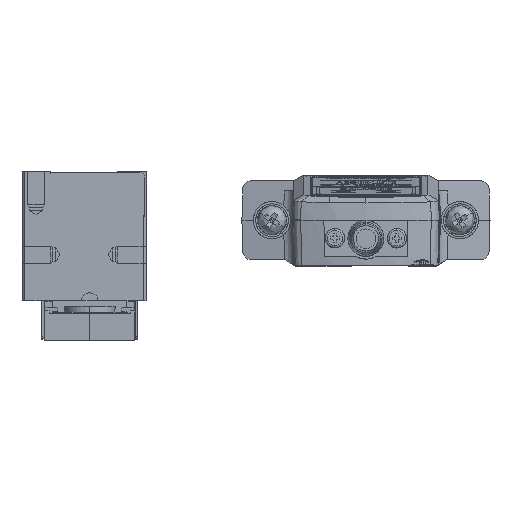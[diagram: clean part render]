
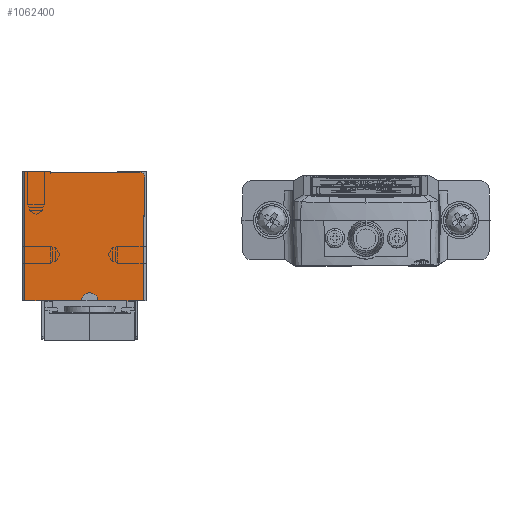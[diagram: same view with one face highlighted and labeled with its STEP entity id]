
A CAD part, left-side view. The second image highlights one B-rep face of the part: STEP entity #1062400.
In plain terms, the highlighted planar face has unit normal (-1, 0, 0).
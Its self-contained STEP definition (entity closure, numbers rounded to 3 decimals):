
#1034970=CARTESIAN_POINT('',(0.,21.5,0.));
#1034980=VERTEX_POINT('',#1034970);
#1035210=CARTESIAN_POINT('',(0.,17.,0.));
#1035220=VERTEX_POINT('',#1035210);
#1035250=CARTESIAN_POINT('',(0.,0.,0.));
#1035260=DIRECTION('',(0.,1.,0.));
#1035270=VECTOR('',#1035260,1.);
#1035280=LINE('',#1035250,#1035270);
#1035290=EDGE_CURVE('',#1035220,#1034980,#1035280,.T.);
#1035530=CARTESIAN_POINT('',(0.,0.5,-8.));
#1035540=VERTEX_POINT('',#1035530);
#1039720=CARTESIAN_POINT('',(0.,21.5,-23.));
#1039730=VERTEX_POINT('',#1039720);
#1039760=CARTESIAN_POINT('',(0.,0.,-23.));
#1039770=DIRECTION('',(0.,-1.,0.));
#1039780=VECTOR('',#1039770,1.);
#1039790=LINE('',#1039760,#1039780);
#1039800=CARTESIAN_POINT('',(0.,11.4,-23.));
#1039810=VERTEX_POINT('',#1039800);
#1039820=EDGE_CURVE('',#1039730,#1039810,#1039790,.T.);
#1040040=CARTESIAN_POINT('',(0.,8.6,-23.));
#1040050=VERTEX_POINT('',#1040040);
#1040080=CARTESIAN_POINT('',(0.,0.,-23.));
#1040090=DIRECTION('',(0.,1.,0.));
#1040100=VECTOR('',#1040090,1.);
#1040110=LINE('',#1040080,#1040100);
#1040120=CARTESIAN_POINT('',(0.,0.5,-23.));
#1040130=VERTEX_POINT('',#1040120);
#1040140=EDGE_CURVE('',#1040130,#1040050,#1040110,.T.);
#1048510=CARTESIAN_POINT('',(0.,0.5,0.));
#1048520=DIRECTION('',(0.,0.,-1.));
#1048530=VECTOR('',#1048520,1.);
#1048540=LINE('',#1048510,#1048530);
#1048550=CARTESIAN_POINT('',(0.,0.5,-7.9));
#1048560=VERTEX_POINT('',#1048550);
#1048570=EDGE_CURVE('',#1048560,#1035540,#1048540,.T.);
#1049440=CARTESIAN_POINT('',(0.,0.2,-1.1));
#1049450=VERTEX_POINT('',#1049440);
#1049480=CARTESIAN_POINT('',(0.,1.1,-1.1));
#1049490=DIRECTION('',(1.,0.,0.));
#1049500=DIRECTION('',(0.,-1.,0.));
#1049510=AXIS2_PLACEMENT_3D('',#1049480,#1049490,#1049500);
#1049520=CIRCLE('',#1049510,0.9);
#1049530=CARTESIAN_POINT('',(0.,1.1,-0.2));
#1049540=VERTEX_POINT('',#1049530);
#1049550=EDGE_CURVE('',#1049540,#1049450,#1049520,.T.);
#1050330=CARTESIAN_POINT('',(0.,21.5,-11.5));
#1050340=DIRECTION('',(0.,0.,-1.));
#1050350=VECTOR('',#1050340,1.);
#1050360=LINE('',#1050330,#1050350);
#1050370=EDGE_CURVE('',#1034980,#1039730,#1050360,.T.);
#1051300=CARTESIAN_POINT('',(0.,10.2,-22.8));
#1051310=DIRECTION('',(1.,0.,0.));
#1051320=DIRECTION('',(0.,-1.,0.));
#1051330=AXIS2_PLACEMENT_3D('',#1051300,#1051310,#1051320);
#1051340=CIRCLE('',#1051330,1.2);
#1051350=CARTESIAN_POINT('',(0.,11.4,-22.8));
#1051360=VERTEX_POINT('',#1051350);
#1051370=CARTESIAN_POINT('',(0.,10.2,-21.6));
#1051380=VERTEX_POINT('',#1051370);
#1051390=EDGE_CURVE('',#1051360,#1051380,#1051340,.T.);
#1052420=CARTESIAN_POINT('',(0.,0.5,-15.5));
#1052430=DIRECTION('',(0.,0.,-1.));
#1052440=VECTOR('',#1052430,1.);
#1052450=LINE('',#1052420,#1052440);
#1052460=EDGE_CURVE('',#1035540,#1040130,#1052450,.T.);
#1052580=CARTESIAN_POINT('',(0.,9.8,-22.8));
#1052590=DIRECTION('',(1.,0.,0.));
#1052600=DIRECTION('',(0.,-1.,0.));
#1052610=AXIS2_PLACEMENT_3D('',#1052580,#1052590,#1052600);
#1052620=CIRCLE('',#1052610,1.2);
#1052630=CARTESIAN_POINT('',(0.,9.8,-21.6));
#1052640=VERTEX_POINT('',#1052630);
#1052650=CARTESIAN_POINT('',(0.,8.6,-22.8));
#1052660=VERTEX_POINT('',#1052650);
#1052670=EDGE_CURVE('',#1052640,#1052660,#1052620,.T.);
#1054920=CARTESIAN_POINT('',(0.,0.,-21.6));
#1054930=DIRECTION('',(0.,1.,0.));
#1054940=VECTOR('',#1054930,1.);
#1054950=LINE('',#1054920,#1054940);
#1054960=EDGE_CURVE('',#1052640,#1051380,#1054950,.T.);
#1055230=CARTESIAN_POINT('',(0.,17.,-0.5));
#1055240=VERTEX_POINT('',#1055230);
#1055290=CARTESIAN_POINT('',(0.,17.,0.));
#1055300=DIRECTION('',(0.,0.,-1.));
#1055310=VECTOR('',#1055300,1.);
#1055320=LINE('',#1055290,#1055310);
#1055330=EDGE_CURVE('',#1035220,#1055240,#1055320,.T.);
#1056000=CARTESIAN_POINT('',(0.,11.4,0.));
#1056010=DIRECTION('',(0.,0.,-1.));
#1056020=VECTOR('',#1056010,1.);
#1056030=LINE('',#1056000,#1056020);
#1056040=EDGE_CURVE('',#1051360,#1039810,#1056030,.T.);
#1058720=CARTESIAN_POINT('',(0.,8.6,0.));
#1058730=DIRECTION('',(0.,0.,1.));
#1058740=VECTOR('',#1058730,1.);
#1058750=LINE('',#1058720,#1058740);
#1058760=EDGE_CURVE('',#1040050,#1052660,#1058750,.T.);
#1061390=CARTESIAN_POINT('',(0.,5.646,-7.9));
#1061400=DIRECTION('',(0.,1.,0.));
#1061410=VECTOR('',#1061400,1.);
#1061420=LINE('',#1061390,#1061410);
#1061430=CARTESIAN_POINT('',(0.,0.2,-7.9));
#1061440=VERTEX_POINT('',#1061430);
#1061450=EDGE_CURVE('',#1061440,#1048560,#1061420,.T.);
#1061910=CARTESIAN_POINT('',(0.,21.9,-6.));
#1061920=DIRECTION('',(-1.,-0.,-0.));
#1061930=DIRECTION('',(0.,0.,-1.));
#1061940=AXIS2_PLACEMENT_3D('',#1061910,#1061920,#1061930);
#1061950=PLANE('',#1061940);
#1061960=CARTESIAN_POINT('',(0.,5.646,
-0.2));
#1061970=DIRECTION('',(0.,-1.,0.));
#1061980=VECTOR('',#1061970,1.);
#1061990=LINE('',#1061960,#1061980);
#1062000=CARTESIAN_POINT('',(0.,16.95,-0.2));
#1062010=VERTEX_POINT('',#1062000);
#1062020=EDGE_CURVE('',#1062010,#1049540,#1061990,.T.);
#1062030=ORIENTED_EDGE('',*,*,#1062020,.F.);
#1062040=ORIENTED_EDGE('',*,*,#1049550,.F.);
#1062050=CARTESIAN_POINT('',(0.,0.2,
-0.2));
#1062060=DIRECTION('',(0.,0.,-1.));
#1062070=VECTOR('',#1062060,1.);
#1062080=LINE('',#1062050,#1062070);
#1062090=EDGE_CURVE('',#1049450,#1061440,#1062080,.T.);
#1062100=ORIENTED_EDGE('',*,*,#1062090,.F.);
#1062110=ORIENTED_EDGE('',*,*,#1061450,.F.);
#1062120=ORIENTED_EDGE('',*,*,#1048570,.F.);
#1062130=ORIENTED_EDGE('',*,*,#1052460,.F.);
#1062140=ORIENTED_EDGE('',*,*,#1040140,.F.);
#1062150=ORIENTED_EDGE('',*,*,#1058760,.F.);
#1062160=ORIENTED_EDGE('',*,*,#1052670,.T.);
#1062170=ORIENTED_EDGE('',*,*,#1054960,.F.);
#1062180=ORIENTED_EDGE('',*,*,#1051390,.T.);
#1062190=ORIENTED_EDGE('',*,*,#1056040,.F.);
#1062200=ORIENTED_EDGE('',*,*,#1039820,.T.);
#1062210=ORIENTED_EDGE('',*,*,#1050370,.T.);
#1062220=ORIENTED_EDGE('',*,*,#1035290,.T.);
#1062230=ORIENTED_EDGE('',*,*,#1055330,.F.);
#1062240=CARTESIAN_POINT('',(0.,0.,-0.5));
#1062250=DIRECTION('',(0.,1.,0.));
#1062260=VECTOR('',#1062250,1.);
#1062270=LINE('',#1062240,#1062260);
#1062280=CARTESIAN_POINT('',(0.,16.95,-0.5));
#1062290=VERTEX_POINT('',#1062280);
#1062300=EDGE_CURVE('',#1062290,#1055240,#1062270,.T.);
#1062310=ORIENTED_EDGE('',*,*,#1062300,.T.);
#1062320=CARTESIAN_POINT('',(0.,16.95,-0.8));
#1062330=DIRECTION('',(0.,0.,1.));
#1062340=VECTOR('',#1062330,1.);
#1062350=LINE('',#1062320,#1062340);
#1062360=EDGE_CURVE('',#1062290,#1062010,#1062350,.T.);
#1062370=ORIENTED_EDGE('',*,*,#1062360,.F.);
#1062380=EDGE_LOOP('',(#1062370,#1062310,#1062230,#1062220,#1062210,
#1062200,#1062190,#1062180,#1062170,#1062160,#1062150,#1062140,#1062130,
#1062120,#1062110,#1062100,#1062040,#1062030));
#1062390=FACE_OUTER_BOUND('',#1062380,.T.);
#1062400=ADVANCED_FACE('',(#1062390),#1061950,.T.);
